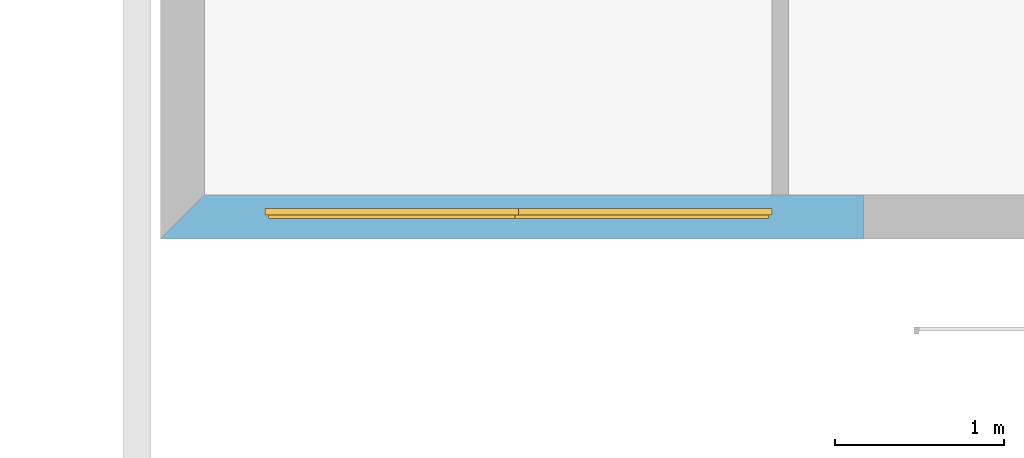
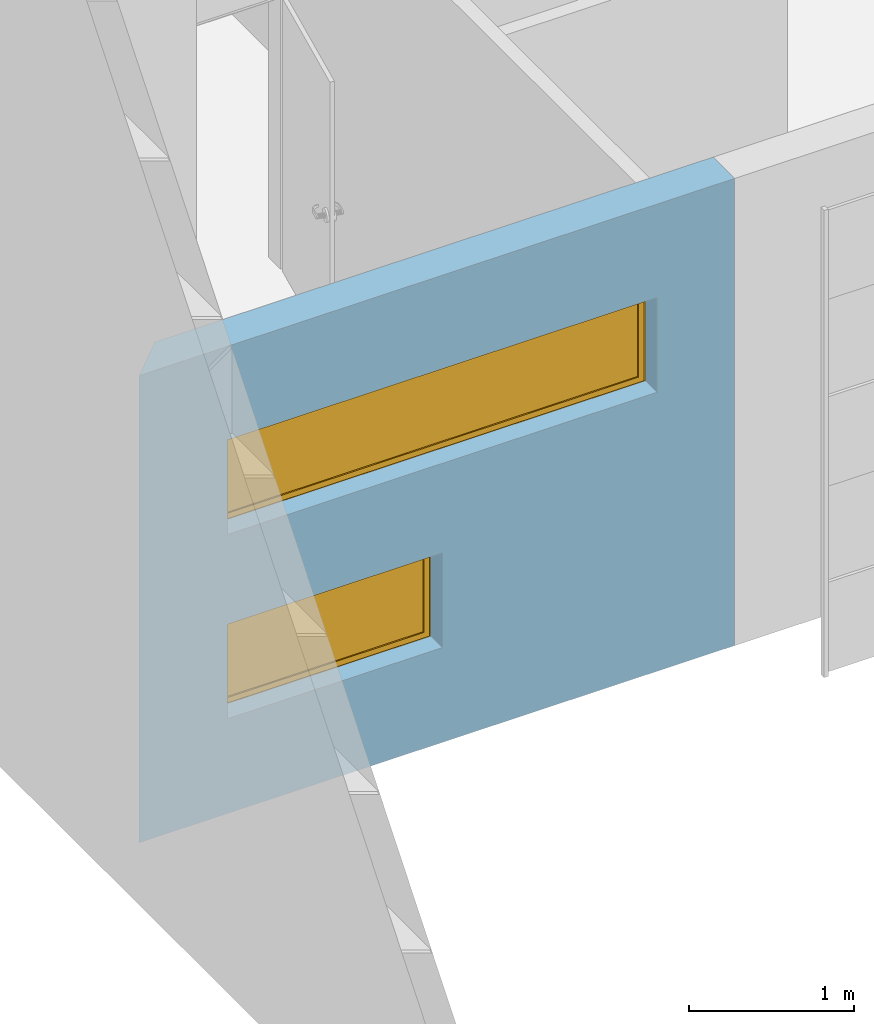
# One storey, part 7 of 14: 2 windows, 2 openings, plus 1 element that does not belong to this part.
"""IFC2X3 building model written with IfcOpenShell, lengths in metres."""

from ifc_helpers import new_model, entity, si_unit, converted_unit, money_unit, direction, frame, origin_with_axes, place, context, subcontext, project, spatial, polyline, outline, extrude, open_shell, faceted_brep, surface_model, material, layer, layer_set, layer_usage, type_object, element, fill, save


model = new_model("IFC2X3")

# Units and contexts
model_context = context("Model", 3, precision=1e-05, world=origin_with_axes(), true_north=direction((0.0, 1.0)))
body_context = subcontext(model_context, "Body", "Model", "MODEL_VIEW")
ifc_project = project(units=[si_unit("LENGTHUNIT", "METRE"), si_unit("AREAUNIT", "SQUARE_METRE"), si_unit("VOLUMEUNIT", "CUBIC_METRE"), converted_unit("PLANEANGLEUNIT", "DEGREE", entity("IfcPlaneAngleMeasure", 0.0174532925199), si_unit("PLANEANGLEUNIT", "RADIAN"), dimensions=[0, 0, 0, 0, 0, 0, 0]), si_unit("SOLIDANGLEUNIT", "STERADIAN"), money_unit("EUR"), converted_unit("TIMEUNIT", "Year", entity("IfcTimeMeasure", 31556926.0), si_unit("TIMEUNIT", "SECOND"), dimensions=[0, 0, 0, 0, 0, 0, 0]), si_unit("MASSUNIT", "GRAM"), si_unit("THERMODYNAMICTEMPERATUREUNIT", "DEGREE_CELSIUS"), si_unit("LUMINOUSINTENSITYUNIT", "LUMEN")], contexts=[model_context])

# Site, building, storey
site_placement = place(None, origin_with_axes())
site = spatial("IfcSite", under=ifc_project, at=site_placement, Name="Site", CompositionType="ELEMENT")
building_placement = place(site_placement, origin_with_axes())
building = spatial("IfcBuilding", under=site, at=building_placement, Name="Bâtiment", CompositionType="ELEMENT")
storey_placement = place(building_placement, frame((0.0, 0.0, 3.0), z_axis=(0.0, 0.0, 1.0), x_axis=(1.0, 0.0, 0.0)))
storey = spatial("IfcBuildingStorey", under=building, at=storey_placement, Name="NIVEAU HAUT ENTRÉE", CompositionType="ELEMENT", Elevation=3.0)

# Wall, openings, windows
ifc_material_1 = material(Name="Hachure solide* 3992800808")
ifc_layer_1 = layer(ifc_material_1, 0.02, ventilated="UNKNOWN")
ifc_material_2 = material(Name="Empty Fill 290923149")
ifc_layer_2 = layer(ifc_material_2, 0.08, ventilated="UNKNOWN")
ifc_material_3 = material(Name="Hachure solide* 2593434267")
ifc_layer_3 = layer(ifc_material_3, 0.16, ventilated="UNKNOWN")
ifc_layer_set = layer_set([ifc_layer_1, ifc_layer_2, ifc_layer_3], Name="•GYMN 16+10")
ifc_layer_usage = layer_usage(ifc_layer_set, "AXIS2", "POSITIVE", -0.26)
wall_type = type_object("IfcWallType", Name="•GYMN 16+10 260", PredefinedType="NOTDEFINED")
wall_placement = place(storey_placement, frame((49.638457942, 5.86881571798, -0.25), z_axis=(0.0, 0.0, 1.0), x_axis=(-1.0, 0.0, 0.0)))
wall = element("IfcWallStandardCase", 1, at=wall_placement, inside=storey, type_object=wall_type, material=ifc_layer_usage, Name="Mur-004", context=body_context, shape_type="SweptSolid", body=[
    extrude(outline(polyline([(0.0, -0.26), (3.9, -0.26), (4.16, 0.0), (0.0, 0.0), (0.0, -0.26)])), origin_with_axes(), (0.0, 0.0, 1.0), 3.45),
])
opening_1_placement = place(wall_placement, frame((2.0422563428, 0.0, 2.0608240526), z_axis=(0.0, 0.0, 1.0), x_axis=(1.0, 0.0, 0.0)))
opening_1 = element("IfcOpeningElement", 2, at=opening_1_placement, cuts=wall, Name="Fen-028", context=body_context, shape_type="SweptSolid", body=[
    extrude(outline(polyline([(-1.5, 0.7), (-1.5, 0.0), (1.5, 0.0), (1.5, 0.7), (-1.5, 0.7)])), frame((0.0, -0.18, 0.0), z_axis=(0.0, 1.0, 0.0), x_axis=(-1.0, 0.0, 0.0)), (0.0, 0.0, 1.0), 0.44),
    extrude(outline(polyline([(-1.5, 0.0), (-1.5, -0.7), (1.5, -0.7), (1.5, 0.0), (-1.5, 0.0)])), frame((0.0, -0.18, 0.0), z_axis=(0.0, -1.0, 0.0), x_axis=(-1.0, 0.0, 0.0)), (0.0, 0.0, 1.0), 0.34),
])
opening_2_placement = place(wall_placement, frame((2.7922563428, 0.0, 0.7), z_axis=(0.0, 0.0, 1.0), x_axis=(1.0, 0.0, 0.0)))
opening_2 = element("IfcOpeningElement", 3, at=opening_2_placement, cuts=wall, Name="Fen-028", context=body_context, shape_type="SweptSolid", body=[
    extrude(outline(polyline([(-0.75, 0.7), (-0.75, 0.0), (0.75, 0.0), (0.75, 0.7), (-0.75, 0.7)])), frame((0.0, -0.18, 0.0), z_axis=(0.0, 1.0, 0.0), x_axis=(-1.0, 0.0, 0.0)), (0.0, 0.0, 1.0), 0.44),
    extrude(outline(polyline([(-0.75, 0.0), (-0.75, -0.7), (0.75, -0.7), (0.75, 0.0), (-0.75, 0.0)])), frame((0.0, -0.18, 0.0), z_axis=(0.0, -1.0, 0.0), x_axis=(-1.0, 0.0, 0.0)), (0.0, 0.0, 1.0), 0.34),
])
ifc_material_4 = material(Name="Sans Trame")
window_style = type_object("IfcWindowStyle", Name="Fen bascule 1 10", ConstructionType="NOTDEFINED", OperationType="SINGLE_PANEL", ParameterTakesPrecedence=False, Sizeable=False)
window_1_placement = place(opening_1_placement, frame((1.5, 0.0, 0.0), z_axis=(0.0, 0.0, 1.0), x_axis=(-1.0, 0.0, 0.0)))
window_1 = element("IfcWindow", 4, at=window_1_placement, inside=storey, type_object=window_style, material=ifc_material_4, Name="Fen-028", OverallHeight=0.7, OverallWidth=3.0, context=body_context, shape_type="SurfaceModel", body=[
    faceted_brep([(0.02, 0.14, 0.66), (0.02, 0.16, 0.66), (0.04, 0.16, 0.66), (0.04, 0.18, 0.66), (0.0, 0.18, 0.66), (0.0, 0.14, 0.66), (0.02, 0.14, 0.04), (0.02, 0.16, 0.04), (0.04, 0.16, 0.04), (0.04, 0.18, 0.04), (0.0, 0.18, 0.04), (0.0, 0.14, 0.04)], [[[0, 1, 2, 3, 4, 5]], [[1, 0, 6, 7]], [[8, 2, 1, 7]], [[2, 8, 9, 3]], [[4, 3, 9, 10]], [[5, 4, 10, 11]], [[6, 0, 5, 11]], [[7, 6, 11, 10, 9, 8]]]),
    faceted_brep([(2.96, 0.16, 0.66), (2.98, 0.16, 0.66), (2.98, 0.14, 0.66), (3.0, 0.14, 0.66), (3.0, 0.18, 0.66), (2.96, 0.18, 0.66), (2.96, 0.16, 0.04), (2.98, 0.16, 0.04), (2.98, 0.14, 0.04), (3.0, 0.14, 0.04), (3.0, 0.18, 0.04), (2.96, 0.18, 0.04)], [[[0, 1, 2, 3, 4, 5]], [[1, 0, 6, 7]], [[8, 2, 1, 7]], [[2, 8, 9, 3]], [[9, 10, 4, 3]], [[10, 11, 5, 4]], [[6, 0, 5, 11]], [[7, 6, 11, 10, 9, 8]]]),
    faceted_brep([(0.02, 0.14, 0.66), (0.02, 0.14, 0.68), (2.98, 0.14, 0.68), (2.98, 0.14, 0.66), (3.0, 0.14, 0.66), (3.0, 0.14, 0.7), (0.0, 0.14, 0.7), (0.0, 0.14, 0.66), (0.02, 0.16, 0.66), (0.02, 0.16, 0.68), (2.98, 0.16, 0.68), (2.98, 0.16, 0.66), (2.96, 0.16, 0.66), (2.96, 0.18, 0.66), (3.0, 0.18, 0.66), (3.0, 0.18, 0.7), (0.0, 0.18, 0.7), (0.0, 0.18, 0.66), (0.04, 0.18, 0.66), (0.04, 0.16, 0.66)], [[[0, 1, 2, 3, 4, 5, 6, 7]], [[1, 0, 8, 9]], [[2, 1, 9, 10]], [[3, 2, 10, 11]], [[11, 12, 13, 14, 4, 3]], [[4, 14, 15, 5]], [[5, 15, 16, 6]], [[6, 16, 17, 7]], [[8, 0, 7, 17, 18, 19]], [[12, 11, 10, 9, 8, 19]], [[12, 19, 18, 13]], [[14, 13, 18, 17, 16, 15]]]),
    faceted_brep([(2.96, 0.16, 0.04), (2.98, 0.16, 0.04), (2.98, 0.14, 0.04), (3.0, 0.14, 0.04), (3.0, 0.18, 0.04), (2.96, 0.18, 0.04), (0.04, 0.16, 0.04), (0.02, 0.16, 0.04), (0.02, 0.16, 0.02), (2.98, 0.16, 0.02), (2.98, 0.14, 0.02), (0.02, 0.14, 0.02), (0.02, 0.14, 0.04), (0.0, 0.14, 0.04), (0.0, 0.14, 0.0), (3.0, 0.14, 0.0), (3.0, 0.18, 0.0), (0.0, 0.18, 0.04), (0.04, 0.18, 0.04), (0.0, 0.18, 0.0)], [[[0, 1, 2, 3, 4, 5]], [[1, 0, 6, 7, 8, 9]], [[10, 2, 1, 9]], [[11, 12, 13, 14, 15, 3, 2, 10]], [[15, 16, 4, 3]], [[17, 18, 5, 4, 16, 19]], [[6, 0, 5, 18]], [[7, 6, 18, 17, 13, 12]], [[7, 12, 11, 8]], [[11, 10, 9, 8]], [[13, 17, 19, 14]], [[14, 19, 16, 15]]]),
    faceted_brep([(2.94, 0.16, 0.06), (2.94, 0.12, 0.06), (2.94, 0.12, 0.64), (2.94, 0.16, 0.64), (2.98, 0.16, 0.06), (2.98, 0.12, 0.06), (2.98, 0.12, 0.64), (2.98, 0.16, 0.64)], [[[0, 1, 2, 3]], [[4, 5, 1, 0]], [[1, 5, 6, 2]], [[3, 2, 6, 7]], [[0, 3, 7, 4]], [[7, 6, 5, 4]]]),
    faceted_brep([(0.02, 0.16, 0.06), (0.02, 0.12, 0.06), (0.02, 0.12, 0.64), (0.02, 0.16, 0.64), (0.06, 0.16, 0.06), (0.06, 0.12, 0.06), (0.06, 0.12, 0.64), (0.06, 0.16, 0.64)], [[[0, 1, 2, 3]], [[4, 5, 1, 0]], [[1, 5, 6, 2]], [[3, 2, 6, 7]], [[0, 3, 7, 4]], [[7, 6, 5, 4]]]),
    faceted_brep([(0.02, 0.16, 0.02), (0.02, 0.12, 0.02), (0.02, 0.12, 0.06), (0.02, 0.16, 0.06), (2.98, 0.16, 0.02), (2.98, 0.12, 0.02), (2.98, 0.12, 0.06), (2.94, 0.12, 0.06), (0.06, 0.12, 0.06), (0.06, 0.16, 0.06), (2.94, 0.16, 0.06), (2.98, 0.16, 0.06)], [[[0, 1, 2, 3]], [[4, 5, 1, 0]], [[1, 5, 6, 7, 8, 2]], [[3, 2, 8, 9]], [[0, 3, 9, 10, 11, 4]], [[11, 6, 5, 4]], [[10, 7, 6, 11]], [[9, 8, 7, 10]]]),
    faceted_brep([(2.98, 0.16, 0.68), (2.98, 0.12, 0.68), (2.98, 0.12, 0.64), (2.98, 0.16, 0.64), (0.02, 0.16, 0.68), (0.02, 0.12, 0.68), (0.02, 0.12, 0.64), (0.06, 0.12, 0.64), (2.94, 0.12, 0.64), (2.94, 0.16, 0.64), (0.06, 0.16, 0.64), (0.02, 0.16, 0.64)], [[[0, 1, 2, 3]], [[4, 5, 1, 0]], [[1, 5, 6, 7, 8, 2]], [[3, 2, 8, 9]], [[0, 3, 9, 10, 11, 4]], [[11, 6, 5, 4]], [[10, 7, 6, 11]], [[9, 8, 7, 10]]]),
    surface_model("IfcShellBasedSurfaceModel", [(2.94, 0.15, 0.06), (0.06, 0.15, 0.06), (0.06, 0.15, 0.64), (2.94, 0.15, 0.64)], [open_shell([[[0, 1, 2, 3]]])]),
    surface_model("IfcShellBasedSurfaceModel", [(2.94, 0.13, 0.06), (2.94, 0.13, 0.64), (0.06, 0.13, 0.64), (0.06, 0.13, 0.06)], [open_shell([[[0, 1, 2, 3]]])]),
])
fill(opening_1, window_1)
window_2_placement = place(opening_2_placement, frame((0.75, 0.0, 0.0), z_axis=(0.0, 0.0, 1.0), x_axis=(-1.0, 0.0, 0.0)))
window_2 = element("IfcWindow", 5, at=window_2_placement, inside=storey, type_object=window_style, material=ifc_material_4, Name="Fen-028", OverallHeight=0.7, OverallWidth=1.5, context=body_context, shape_type="SurfaceModel", body=[
    faceted_brep([(0.02, 0.14, 0.66), (0.02, 0.16, 0.66), (0.04, 0.16, 0.66), (0.04, 0.18, 0.66), (0.0, 0.18, 0.66), (0.0, 0.14, 0.66), (0.02, 0.14, 0.04), (0.02, 0.16, 0.04), (0.04, 0.16, 0.04), (0.04, 0.18, 0.04), (0.0, 0.18, 0.04), (0.0, 0.14, 0.04)], [[[0, 1, 2, 3, 4, 5]], [[1, 0, 6, 7]], [[8, 2, 1, 7]], [[2, 8, 9, 3]], [[4, 3, 9, 10]], [[5, 4, 10, 11]], [[6, 0, 5, 11]], [[7, 6, 11, 10, 9, 8]]]),
    faceted_brep([(1.46, 0.16, 0.66), (1.48, 0.16, 0.66), (1.48, 0.14, 0.66), (1.5, 0.14, 0.66), (1.5, 0.18, 0.66), (1.46, 0.18, 0.66), (1.46, 0.16, 0.04), (1.48, 0.16, 0.04), (1.48, 0.14, 0.04), (1.5, 0.14, 0.04), (1.5, 0.18, 0.04), (1.46, 0.18, 0.04)], [[[0, 1, 2, 3, 4, 5]], [[1, 0, 6, 7]], [[8, 2, 1, 7]], [[2, 8, 9, 3]], [[9, 10, 4, 3]], [[10, 11, 5, 4]], [[6, 0, 5, 11]], [[7, 6, 11, 10, 9, 8]]]),
    faceted_brep([(0.02, 0.14, 0.66), (0.02, 0.14, 0.68), (1.48, 0.14, 0.68), (1.48, 0.14, 0.66), (1.5, 0.14, 0.66), (1.5, 0.14, 0.7), (0.0, 0.14, 0.7), (0.0, 0.14, 0.66), (0.02, 0.16, 0.66), (0.02, 0.16, 0.68), (1.48, 0.16, 0.68), (1.48, 0.16, 0.66), (1.46, 0.16, 0.66), (1.46, 0.18, 0.66), (1.5, 0.18, 0.66), (1.5, 0.18, 0.7), (0.0, 0.18, 0.7), (0.0, 0.18, 0.66), (0.04, 0.18, 0.66), (0.04, 0.16, 0.66)], [[[0, 1, 2, 3, 4, 5, 6, 7]], [[1, 0, 8, 9]], [[2, 1, 9, 10]], [[3, 2, 10, 11]], [[11, 12, 13, 14, 4, 3]], [[4, 14, 15, 5]], [[5, 15, 16, 6]], [[6, 16, 17, 7]], [[8, 0, 7, 17, 18, 19]], [[12, 11, 10, 9, 8, 19]], [[12, 19, 18, 13]], [[14, 13, 18, 17, 16, 15]]]),
    faceted_brep([(1.46, 0.16, 0.04), (1.48, 0.16, 0.04), (1.48, 0.14, 0.04), (1.5, 0.14, 0.04), (1.5, 0.18, 0.04), (1.46, 0.18, 0.04), (0.04, 0.16, 0.04), (0.02, 0.16, 0.04), (0.02, 0.16, 0.02), (1.48, 0.16, 0.02), (1.48, 0.14, 0.02), (0.02, 0.14, 0.02), (0.02, 0.14, 0.04), (0.0, 0.14, 0.04), (0.0, 0.14, 0.0), (1.5, 0.14, 0.0), (1.5, 0.18, 0.0), (0.0, 0.18, 0.04), (0.04, 0.18, 0.04), (0.0, 0.18, 0.0)], [[[0, 1, 2, 3, 4, 5]], [[1, 0, 6, 7, 8, 9]], [[10, 2, 1, 9]], [[11, 12, 13, 14, 15, 3, 2, 10]], [[15, 16, 4, 3]], [[17, 18, 5, 4, 16, 19]], [[6, 0, 5, 18]], [[7, 6, 18, 17, 13, 12]], [[7, 12, 11, 8]], [[11, 10, 9, 8]], [[13, 17, 19, 14]], [[14, 19, 16, 15]]]),
    faceted_brep([(1.44, 0.16, 0.06), (1.44, 0.12, 0.06), (1.44, 0.12, 0.64), (1.44, 0.16, 0.64), (1.48, 0.16, 0.06), (1.48, 0.12, 0.06), (1.48, 0.12, 0.64), (1.48, 0.16, 0.64)], [[[0, 1, 2, 3]], [[4, 5, 1, 0]], [[1, 5, 6, 2]], [[3, 2, 6, 7]], [[0, 3, 7, 4]], [[7, 6, 5, 4]]]),
    faceted_brep([(0.02, 0.16, 0.06), (0.02, 0.12, 0.06), (0.02, 0.12, 0.64), (0.02, 0.16, 0.64), (0.06, 0.16, 0.06), (0.06, 0.12, 0.06), (0.06, 0.12, 0.64), (0.06, 0.16, 0.64)], [[[0, 1, 2, 3]], [[4, 5, 1, 0]], [[1, 5, 6, 2]], [[3, 2, 6, 7]], [[0, 3, 7, 4]], [[7, 6, 5, 4]]]),
    faceted_brep([(0.02, 0.16, 0.02), (0.02, 0.12, 0.02), (0.02, 0.12, 0.06), (0.02, 0.16, 0.06), (1.48, 0.16, 0.02), (1.48, 0.12, 0.02), (1.48, 0.12, 0.06), (1.44, 0.12, 0.06), (0.06, 0.12, 0.06), (0.06, 0.16, 0.06), (1.44, 0.16, 0.06), (1.48, 0.16, 0.06)], [[[0, 1, 2, 3]], [[4, 5, 1, 0]], [[1, 5, 6, 7, 8, 2]], [[3, 2, 8, 9]], [[0, 3, 9, 10, 11, 4]], [[11, 6, 5, 4]], [[10, 7, 6, 11]], [[9, 8, 7, 10]]]),
    faceted_brep([(1.48, 0.16, 0.68), (1.48, 0.12, 0.68), (1.48, 0.12, 0.64), (1.48, 0.16, 0.64), (0.02, 0.16, 0.68), (0.02, 0.12, 0.68), (0.02, 0.12, 0.64), (0.06, 0.12, 0.64), (1.44, 0.12, 0.64), (1.44, 0.16, 0.64), (0.06, 0.16, 0.64), (0.02, 0.16, 0.64)], [[[0, 1, 2, 3]], [[4, 5, 1, 0]], [[1, 5, 6, 7, 8, 2]], [[3, 2, 8, 9]], [[0, 3, 9, 10, 11, 4]], [[11, 6, 5, 4]], [[10, 7, 6, 11]], [[9, 8, 7, 10]]]),
    surface_model("IfcShellBasedSurfaceModel", [(1.44, 0.15, 0.06), (0.06, 0.15, 0.06), (0.06, 0.15, 0.64), (1.44, 0.15, 0.64)], [open_shell([[[0, 1, 2, 3]]])]),
    surface_model("IfcShellBasedSurfaceModel", [(1.44, 0.13, 0.06), (1.44, 0.13, 0.64), (0.06, 0.13, 0.64), (0.06, 0.13, 0.06)], [open_shell([[[0, 1, 2, 3]]])]),
])
fill(opening_2, window_2)

save(model, "model.ifc")
